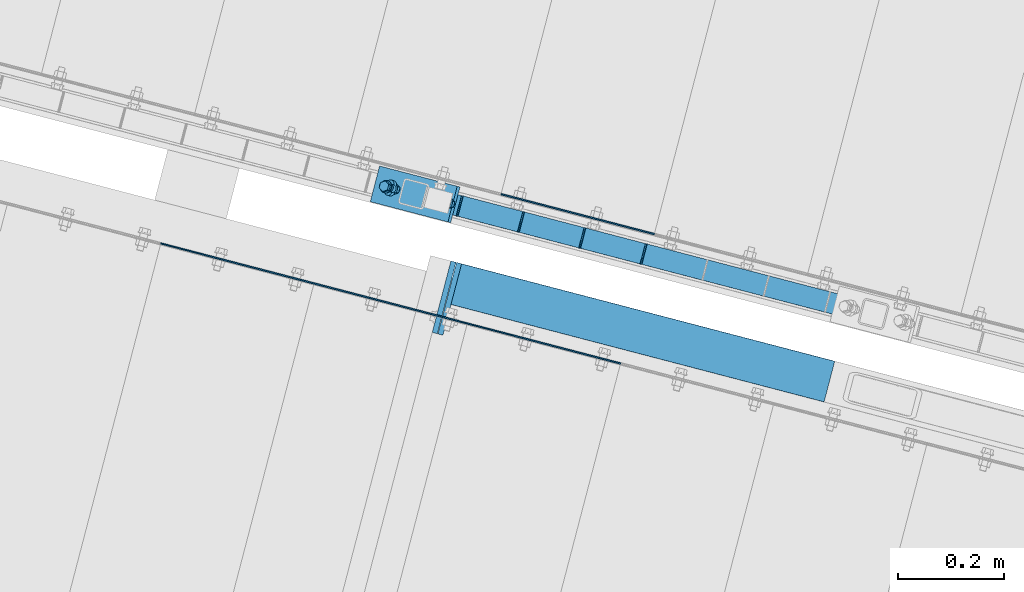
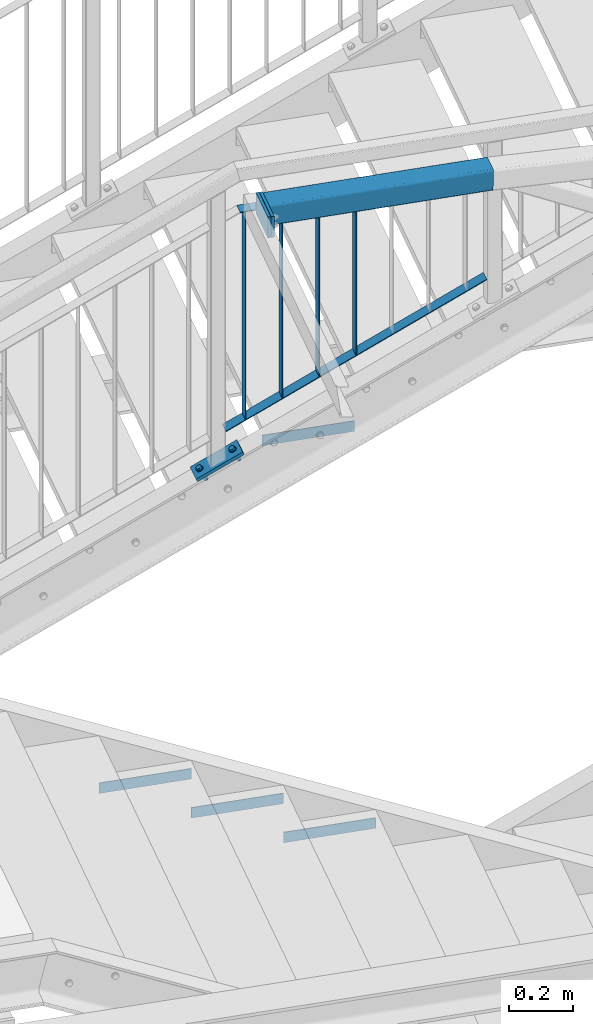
# One storey, part 65 of 169: 14 discrete accessories, 1 mechanical fastener, 7 elements without a shape of their own.
"""IFC2X3 building model written with IfcOpenShell, lengths in millimetres."""

import ifcopenshell
import ifcopenshell.guid

model = None  # the IFC model being written
_history = None  # IfcOwnerHistory: only IFC2X3 demands one
_inside = {}  # id of a spatial element -> (the spatial element, [elements in it])
_under = {}  # id of a project, library or spatial element -> (it, [spatial elements below it])
_declared = {}  # id of a project -> (the project, [libraries it declares])
_typed = {}  # id of a type object -> (the type object, [elements of that type])
_made_of = {}  # id of a material, layer set ... -> (it, [elements and type objects made of it])


def new_model(schema):
    """Start an empty IFC model of exactly this schema.

    Asked for "IFC4X3", IfcOpenShell would pick the latest addendum, in which some entities
    have other attributes; the version numbers below select the first issue.
    IFC2X3 requires an IfcOwnerHistory on every rooted entity: one is made here for all.
    """
    global model, _history
    if schema == "IFC4X3":
        model = ifcopenshell.file(schema_version=(4, 3, 0, 0))
    else:
        model = ifcopenshell.file(schema=schema)
    _inside.clear()
    _under.clear()
    _declared.clear()
    _typed.clear()
    _made_of.clear()
    _history = None
    if model.schema == "IFC2X3":
        org = make("IfcOrganization", Name="unknown")
        user = make(
            "IfcPersonAndOrganization",
            ThePerson=make("IfcPerson", FamilyName="unknown"),
            TheOrganization=org,
        )
        app = make(
            "IfcApplication",
            ApplicationDeveloper=org,
            Version="unknown",
            ApplicationFullName="unknown",
            ApplicationIdentifier="unknown",
        )
        _history = make(
            "IfcOwnerHistory",
            OwningUser=user,
            OwningApplication=app,
            ChangeAction="ADDED",
            CreationDate=0,
        )
    return model


def make(cls, **values):
    """One entity of the class cls with the attributes given. An attribute that is None is left unset."""
    return model.create_entity(
        cls, **{name: value for name, value in values.items() if value is not None}
    )


def rooted(cls, **values):
    """An entity with a GlobalId (a new one), such as an element, a storey or a relation."""
    return make(cls, GlobalId=ifcopenshell.guid.new(), OwnerHistory=_history, **values)


def si_unit(unit_type, name, prefix=None):
    """IfcSIUnit, for example si_unit("LENGTHUNIT", "METRE", prefix="MILLI")."""
    return make("IfcSIUnit", UnitType=unit_type, Prefix=prefix, Name=name)


def assignment(units):
    """IfcUnitAssignment: the units of a project."""
    return None if units is None else make("IfcUnitAssignment", Units=units)


def point(xyz):
    """IfcCartesianPoint."""
    return None if xyz is None else make("IfcCartesianPoint", Coordinates=xyz)


def direction(xyz):
    """IfcDirection."""
    return None if xyz is None else make("IfcDirection", DirectionRatios=xyz)


def frame(location, z_axis=None, x_axis=None):
    """IfcAxis2Placement3D, a coordinate frame: its origin and axes. An axis left out is left unset."""
    return make(
        "IfcAxis2Placement3D",
        Location=point(location),
        Axis=direction(z_axis),
        RefDirection=direction(x_axis),
    )


def frame_2d(location, x_axis=None):
    """IfcAxis2Placement2D, a coordinate frame in the plane: its origin and x axis."""
    return make(
        "IfcAxis2Placement2D", Location=point(location), RefDirection=direction(x_axis)
    )


def origin_with_axes():
    """The frame at (0, 0, 0) with the z axis (0, 0, 1) and the x axis (1, 0, 0) written out."""
    return frame((0.0, 0.0, 0.0), z_axis=(0.0, 0.0, 1.0), x_axis=(1.0, 0.0, 0.0))


def origin_2d_with_axis():
    """The frame at (0, 0) in the plane with the x axis (1, 0) written out."""
    return frame_2d((0.0, 0.0), x_axis=(1.0, 0.0))


def place(relative_to, where):
    """IfcLocalPlacement: puts the frame where relative to a parent placement (None: the world)."""
    return make(
        "IfcLocalPlacement", PlacementRelTo=relative_to, RelativePlacement=where
    )


def context(
    kind, dimensions, precision=None, world=None, true_north=None, identifier=None
):
    """IfcGeometricRepresentationContext, for example the 3D "Model" context."""
    return make(
        "IfcGeometricRepresentationContext",
        ContextIdentifier=identifier,
        ContextType=kind,
        CoordinateSpaceDimension=dimensions,
        Precision=precision,
        WorldCoordinateSystem=world,
        TrueNorth=true_north,
    )


def subcontext(parent, identifier, kind, view, scale=None):
    """IfcGeometricRepresentationSubContext, for example "Body" below "Model"."""
    return make(
        "IfcGeometricRepresentationSubContext",
        ContextIdentifier=identifier,
        ContextType=kind,
        ParentContext=parent,
        TargetScale=scale,
        TargetView=view,
    )


def project(units=None, contexts=None):
    """IfcProject with its units and contexts."""
    return rooted(
        "IfcProject",
        Name="project",
        RepresentationContexts=contexts,
        UnitsInContext=assignment(units),
    )


def spatial(cls, under=None, at=None, **own):
    """A site, building, storey or space (cls), placed at a placement, below another one or the project."""
    s = rooted(cls, ObjectPlacement=at, **own)
    if under is not None:
        _under.setdefault(under.id(), (under, []))[1].append(s)
    return s


def polyline(points):
    """IfcPolyline through the points."""
    return make("IfcPolyline", Points=[point(p) for p in points])


def circle_curve(where, radius):
    """IfcCircle in the frame where."""
    return make("IfcCircle", Position=where, Radius=radius)


def parameter(value):
    """IfcParameterValue: where a trimmed curve begins or ends, as a parameter of its basis curve."""
    return model.create_entity("IfcParameterValue", value)


def trimmed(basis, trim1, trim2, sense, master):
    """IfcTrimmedCurve: the piece of a basis curve between two trims."""
    return make(
        "IfcTrimmedCurve",
        BasisCurve=basis,
        Trim1=trim1,
        Trim2=trim2,
        SenseAgreement=sense,
        MasterRepresentation=master,
    )


def segment(curve, same_sense, transition):
    """IfcCompositeCurveSegment."""
    return make(
        "IfcCompositeCurveSegment",
        Transition=transition,
        SameSense=same_sense,
        ParentCurve=curve,
    )


def composite_curve(segments, self_intersect=None):
    """IfcCompositeCurve: segments joined end to end."""
    return make("IfcCompositeCurve", Segments=segments, SelfIntersect=self_intersect)


def profile(cls, at=None, kind="AREA", **sizes):
    """A parametric profile (cls). Its sizes go by their IFC names, for example OverallWidth=200.0."""
    return make(cls, ProfileType=kind, Position=at, **sizes)


def rectangle(**sizes):
    """IfcRectangleProfileDef."""
    return profile("IfcRectangleProfileDef", **sizes)


def hollow_rectangle(**sizes):
    """IfcRectangleHollowProfileDef."""
    return profile("IfcRectangleHollowProfileDef", **sizes)


def circle(**sizes):
    """IfcCircleProfileDef."""
    return profile("IfcCircleProfileDef", **sizes)


def outline(outer, holes=None, kind="AREA"):
    """IfcArbitraryClosedProfileDef: a profile drawn as a closed curve; with holes, ...WithVoids."""
    if holes is None:
        return make("IfcArbitraryClosedProfileDef", ProfileType=kind, OuterCurve=outer)
    return make(
        "IfcArbitraryProfileDefWithVoids",
        ProfileType=kind,
        OuterCurve=outer,
        InnerCurves=holes,
    )


def extrude(swept, where, along, depth):
    """IfcExtrudedAreaSolid: the profile swept, set in the frame where, extruded along a direction by depth."""
    return make(
        "IfcExtrudedAreaSolid",
        SweptArea=swept,
        Position=where,
        ExtrudedDirection=direction(along),
        Depth=depth,
    )


def boolean(op, a, b):
    """IfcBooleanResult of two solids."""
    return make("IfcBooleanResult", Operator=op, FirstOperand=a, SecondOperand=b)


def clip(a, b, op="DIFFERENCE"):
    """IfcBooleanClippingResult: the solid a cut by the half space b."""
    return make(
        "IfcBooleanClippingResult", Operator=op, FirstOperand=a, SecondOperand=b
    )


def halfspace(plane, agree):
    """IfcHalfSpaceSolid: all space on one side of the plane z = 0 of the frame plane."""
    return make(
        "IfcHalfSpaceSolid",
        BaseSurface=make("IfcPlane", Position=plane),
        AgreementFlag=agree,
    )


def shape(context_of_items, identifier, shape_type, items):
    """IfcShapeRepresentation: the items that make up one representation, for example the "Body"."""
    return make(
        "IfcShapeRepresentation",
        ContextOfItems=context_of_items,
        RepresentationIdentifier=identifier,
        RepresentationType=shape_type,
        Items=items,
    )


def source(mapping_origin, context_of_items, identifier, shape_type, items):
    """IfcRepresentationMap: a shape defined once, which mapped items show again and again."""
    return make(
        "IfcRepresentationMap",
        MappingOrigin=mapping_origin,
        MappedRepresentation=shape(context_of_items, identifier, shape_type, items),
    )


def transform(
    local_origin,
    x_axis=None,
    y_axis=None,
    z_axis=None,
    scale=None,
    scale2=None,
    scale3=None,
    uniform=True,
):
    """IfcCartesianTransformationOperator3D, or its non-uniform kind. x_axis, y_axis, z_axis: its Axis1, 2, 3."""
    if uniform:
        return make(
            "IfcCartesianTransformationOperator3D",
            Axis1=direction(x_axis),
            Axis2=direction(y_axis),
            LocalOrigin=point(local_origin),
            Scale=scale,
            Axis3=direction(z_axis),
        )
    return make(
        "IfcCartesianTransformationOperator3DnonUniform",
        Axis1=direction(x_axis),
        Axis2=direction(y_axis),
        LocalOrigin=point(local_origin),
        Scale=scale,
        Axis3=direction(z_axis),
        Scale2=scale2,
        Scale3=scale3,
    )


def mapped(mapping_source, mapping_target):
    """IfcMappedItem: shows the shape of a source again, moved by a transform."""
    return make(
        "IfcMappedItem", MappingSource=mapping_source, MappingTarget=mapping_target
    )


def material(Name=None, Category=None):
    """IfcMaterial."""
    return make("IfcMaterial", Name=Name, Category=Category)


def made_of(thing, what):
    """Note that an element or type object is made of a material, layer set ...; save() writes the relation."""
    if what is not None:
        _made_of.setdefault(what.id(), (what, []))[1].append(thing)
    return thing


def type_object(cls, material=None, **own):
    """A type object (cls), such as IfcWallType, which elements share."""
    return made_of(rooted(cls, **own), material)


def element(
    cls,
    number,
    at=None,
    inside=None,
    cuts=None,
    type_object=None,
    material=None,
    context=None,
    identifier="Body",
    shape_type=None,
    held_by="IfcProductDefinitionShape",
    body=None,
    shapes=None,
    **own,
):
    """One element of the class cls, such as IfcWall. Its Tag is "e" and its number.

    at: its placement. inside: the storey or other place that contains it. cuts: it is an
    opening in that element (IfcRelVoidsElement). A single representation is given by context,
    identifier, shape_type and body (its items); several are given by shapes. held_by: the class
    of the entity that holds the representations. save() writes the other relations.
    """
    e = rooted(cls, Tag="e%d" % number, ObjectPlacement=at, **own)
    if body is not None:
        shapes = [shape(context, identifier, shape_type, body)]
    if shapes is not None:
        e.Representation = make(held_by, Representations=shapes)
    if inside is not None:
        _inside.setdefault(inside.id(), (inside, []))[1].append(e)
    if cuts is not None:
        rooted(
            "IfcRelVoidsElement", RelatingBuildingElement=cuts, RelatedOpeningElement=e
        )
    if type_object is not None:
        _typed.setdefault(type_object.id(), (type_object, []))[1].append(e)
    return made_of(e, material)


def aggregate(whole, parts):
    """IfcRelAggregates: a whole, such as a stair, and the parts it consists of."""
    return rooted("IfcRelAggregates", RelatingObject=whole, RelatedObjects=parts)


def save(model, path):
    """Write the relations noted so far, then the file.

    IfcRelAggregates (storeys below a building ...), IfcRelContainedInSpatialStructure (elements
    in a storey), IfcRelDefinesByType, IfcRelAssociatesMaterial and IfcRelDeclares: one each for
    every whole, place, type object, material and project.
    """
    for whole, parts in _under.values():
        aggregate(whole, parts)
    for where, things in _inside.values():
        rooted(
            "IfcRelContainedInSpatialStructure",
            RelatedElements=things,
            RelatingStructure=where,
        )
    for kind, things in _typed.values():
        rooted("IfcRelDefinesByType", RelatedObjects=things, RelatingType=kind)
    for what, things in _made_of.values():
        rooted("IfcRelAssociatesMaterial", RelatedObjects=things, RelatingMaterial=what)
    for by, libraries in _declared.values():
        rooted("IfcRelDeclares", RelatingContext=by, RelatedDefinitions=libraries)
    model.write(path)


model = new_model("IFC2X3")

# Units and contexts
model_context = context("Model", 3, precision=1e-05, world=origin_with_axes())
body_context = subcontext(model_context, "Body", "Model", "MODEL_VIEW")
ifc_project = project(units=[si_unit("LENGTHUNIT", "METRE", prefix="MILLI"), si_unit("AREAUNIT", "SQUARE_METRE"), si_unit("VOLUMEUNIT", "CUBIC_METRE"), si_unit("MASSUNIT", "GRAM", prefix="KILO"), si_unit("TIMEUNIT", "SECOND"), si_unit("PLANEANGLEUNIT", "RADIAN"), si_unit("SOLIDANGLEUNIT", "STERADIAN"), si_unit("THERMODYNAMICTEMPERATUREUNIT", "DEGREE_CELSIUS"), si_unit("LUMINOUSINTENSITYUNIT", "LUMEN")], contexts=[model_context])

# Site, building, storey
site_placement = place(None, origin_with_axes())
site = spatial("IfcSite", under=ifc_project, at=site_placement, Name="Undefined", CompositionType="ELEMENT")
building_placement = place(site_placement, origin_with_axes())
building = spatial("IfcBuilding", under=site, at=building_placement, Name="Undefined", CompositionType="ELEMENT")
storey_placement = place(building_placement, origin_with_axes())
storey = spatial("IfcBuildingStorey", under=building, at=storey_placement, Name="Undefined", CompositionType="ELEMENT", Elevation=0.0)

# Assembly, discrete accessory
assembly_1_placement = place(storey_placement, origin_with_axes())
assembly_1 = element("IfcElementAssembly", 1, at=assembly_1_placement, inside=storey, Name="Steel Assembly", AssemblyPlace="NOTDEFINED", PredefinedType="RIGID_FRAME")
ifc_material_1 = material(Name="STEEL/S235")
discrete_accessory_type_1 = type_object("IfcDiscreteAccessoryType", Name="BLACHA")
discrete_accessory_1_placement = place(assembly_1_placement, frame((-26855.1359177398, 6910.02101030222, 13909.0828067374), z_axis=(0.96756338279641, -0.25262835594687, 0.000118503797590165), x_axis=(-8.00909999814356e-05, 0.000162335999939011, 0.999999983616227)))
discrete_accessory_1 = element("IfcDiscreteAccessory", 2, at=discrete_accessory_1_placement, type_object=discrete_accessory_type_1, material=ifc_material_1, Name="BLACHA", ObjectType="BL10*140", context=body_context, shape_type="SweptSolid", body=[
    extrude(outline(polyline([(1.4915713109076e-10, 69.9999999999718), (79.9999999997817, 69.999999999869), (79.9999999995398, -70.00000000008), (-1.4915713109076e-10, -69.9999999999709), (1.4915713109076e-10, 69.9999999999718)])), frame((-1.81898926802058e-12, -1.18000176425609e-16, -5.00000000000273), z_axis=(0.0, 0.0, 1.0), x_axis=(1.0, 0.0, 0.0)), (0.0, 0.0, 1.0), 10.0),
])

assembly_2_placement = place(storey_placement, origin_with_axes())
assembly_2 = element("IfcElementAssembly", 3, at=assembly_2_placement, inside=storey, Name="Steel Assembly", AssemblyPlace="NOTDEFINED", PredefinedType="RIGID_FRAME")
discrete_accessory_2_placement = place(assembly_2_placement, frame((-26865.779114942, 6912.79992221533, 13909.0815033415), z_axis=(0.96756338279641, -0.25262835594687, 0.000118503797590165), x_axis=(-8.00909999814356e-05, 0.000162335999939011, 0.999999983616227)))
discrete_accessory_2 = element("IfcDiscreteAccessory", 4, at=discrete_accessory_2_placement, type_object=discrete_accessory_type_1, material=ifc_material_1, Name="BLACHA", ObjectType="BL10*140", context=body_context, shape_type="SweptSolid", body=[
    extrude(outline(polyline([(1.4915713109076e-10, 69.9999999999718), (79.9999999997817, 69.999999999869), (79.9999999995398, -70.00000000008), (-1.4915713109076e-10, -69.9999999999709), (1.4915713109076e-10, 69.9999999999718)])), frame((-1.81898926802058e-12, -1.18000176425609e-16, -5.00000000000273), z_axis=(0.0, 0.0, 1.0), x_axis=(1.0, 0.0, 0.0)), (0.0, 0.0, 1.0), 10.0),
])
aggregate(assembly_2, [discrete_accessory_2])

assembly_3_placement = place(storey_placement, origin_with_axes())
assembly_3 = element("IfcElementAssembly", 5, at=assembly_3_placement, inside=storey, Name="Steel Assembly", AssemblyPlace="NOTDEFINED", PredefinedType="RIGID_FRAME")
discrete_accessory_3_placement = place(assembly_3_placement, frame((-26929.5478369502, 7074.00199270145, 12909.2371458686), z_axis=(-0.432715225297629, 0.11294923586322, 0.894427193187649), x_axis=(0.252628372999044, 0.967563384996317, 3.42100000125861e-05)))
discrete_accessory_3 = element("IfcDiscreteAccessory", 6, at=discrete_accessory_3_placement, type_object=discrete_accessory_type_1, material=ifc_material_1, Name="BLACHA", ObjectType="BL12*170", context=body_context, shape_type="SweptSolid", body=[
    extrude(outline(polyline([(5.82076609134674e-11, 84.99999999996), (70.0000000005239, 84.9999999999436), (70.0000000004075, -84.9999999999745), (-5.82076609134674e-11, -84.99999999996), (5.82076609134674e-11, 84.99999999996)])), frame((-1.81898942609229e-12, -1.81898940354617e-12, -5.99999999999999), z_axis=(0.0, 0.0, 1.0), x_axis=(1.0, 0.0, 0.0)), (0.0, 0.0, 1.0), 12.0),
])

# Discrete accessory
discrete_accessory_type_2 = type_object("IfcDiscreteAccessoryType", Name="BEAM")
discrete_accessory_4_placement = place(assembly_1_placement, frame((-26135.9892058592, 6753.2649983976, 13949.1658513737), z_axis=(8.00909999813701e-05, -0.000162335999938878, -0.999999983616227), x_axis=(-0.967563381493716, 0.252628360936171, -0.000118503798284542)))
discrete_accessory_4 = element("IfcDiscreteAccessory", 7, at=discrete_accessory_4_placement, type_object=discrete_accessory_type_2, material=ifc_material_1, Name="BEAM", ObjectType="SHS80*4", context=body_context, shape_type="Clipping", body=[
    clip(clip(extrude(hollow_rectangle(XDim=80.0, YDim=80.0, WallThickness=4.0, InnerFilletRadius=4.0, OuterFilletRadius=8.0, at=origin_2d_with_axis()), frame((730.425788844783, -7.17147075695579e-13, 9.89911533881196e-18), z_axis=(-1.0, -3.46944695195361e-18, -1.38777878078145e-17), x_axis=(1.73472347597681e-18, -1.0, 0.0)), (0.0, 0.0, 1.0), 769.95), halfspace(frame((730.425788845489, 4.08056166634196e-09, 40.0000000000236), z_axis=(-1.0, -3.46944695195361e-18, -1.38777878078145e-17), x_axis=(1.73472347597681e-18, -1.0, 0.0)), True)), halfspace(frame((1.02154190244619e-05, 0.00025891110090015, -40.0002588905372), z_axis=(-0.999688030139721, -1.62913579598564e-07, 0.0249768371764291), x_axis=(-1.25063525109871e-09, 0.999999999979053, 6.47253026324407e-06)), False)),
])

aggregate(assembly_1, [discrete_accessory_1, discrete_accessory_4])

discrete_accessory_type_3 = type_object("IfcDiscreteAccessoryType", Name="PORĘCZ")
discrete_accessory_5_placement = place(assembly_3_placement, frame((-26077.6190467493, 6887.87240340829, 13860.1970313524), z_axis=(3.4552000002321e-05, 0.000132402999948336, 0.999999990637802), x_axis=(-0.967563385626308, 0.252628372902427, -1.72000000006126e-07)))
discrete_accessory_5 = element("IfcDiscreteAccessory", 8, at=discrete_accessory_5_placement, type_object=discrete_accessory_type_3, material=ifc_material_1, Name="PORĘCZ", ObjectType="BL40*3", context=body_context, shape_type="Clipping", body=[
    clip(clip(extrude(outline(polyline([(802.09830170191, 20.0000000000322), (802.098301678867, -19.9999999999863), (-0.999999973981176, -20.0000000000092), (-0.999999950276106, 20.0000000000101), (802.09830170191, 20.0000000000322)])), frame((1.81898940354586e-12, -1.77635442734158e-15, -1.50000000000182), z_axis=(0.0, 0.0, 1.0), x_axis=(1.0, 0.0, 0.0)), (0.0, 0.0, 1.0), 3.0), halfspace(frame((802.452403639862, 1.31140609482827e-09, 1.50000001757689), z_axis=(0.973248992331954, -5.59252455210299e-10, -0.229752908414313), x_axis=(0.0, 1.0, 0.0)), False)), halfspace(frame((-0.999999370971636, 999.999999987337, 1.26783561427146e-09), z_axis=(1.0, 0.0, 0.0), x_axis=(-2.54700353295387e-10, 0.0, -1.0)), True)),
])

discrete_accessory_6_placement = place(assembly_3_placement, frame((-26836.1833145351, 7085.95383391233, 14017.1970301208), z_axis=(-0.967563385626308, 0.252628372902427, -1.72000000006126e-07), x_axis=(-3.45692487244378e-05, -0.000132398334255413, -0.999999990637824)))
discrete_accessory_6 = element("IfcDiscreteAccessory", 9, at=discrete_accessory_6_placement, type_object=discrete_accessory_type_3, material=ifc_material_1, Name="PORĘCZ", ObjectType="BL40*3", context=body_context, shape_type="Clipping", body=[
    clip(clip(extrude(outline(polyline([(953.32294910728, 20.0000000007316), (953.322949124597, -19.9999999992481), (158.500000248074, -19.9999999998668), (158.50000023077, 20.0000000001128), (953.32294910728, 20.0000000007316)])), frame((1.81898940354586e-12, -1.77635442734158e-15, -1.50000000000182), z_axis=(0.0, 0.0, 1.0), x_axis=(1.0, 0.0, 0.0)), (0.0, 0.0, 1.0), 3.0), halfspace(frame((158.4999998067, 1000.00000000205, -1.02481862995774e-08), z_axis=(1.0, 0.0, 0.0), x_axis=(-2.54700353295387e-10, 0.0, -1.0)), True)), halfspace(frame((953.658358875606, 1000.00000000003, 0.670820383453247), z_axis=(-0.89442719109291, -3.87067713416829e-10, 0.44721359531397), x_axis=(0.44721359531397, 3.3177479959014e-10, 0.89442719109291)), True)),
])

discrete_accessory_7_placement = place(assembly_3_placement, frame((-26720.0736341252, 7055.64637307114, 14077.1970294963), z_axis=(-0.967563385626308, 0.252628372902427, -1.72000000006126e-07), x_axis=(-3.45692487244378e-05, -0.000132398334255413, -0.999999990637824)))
discrete_accessory_7 = element("IfcDiscreteAccessory", 10, at=discrete_accessory_7_placement, type_object=discrete_accessory_type_3, material=ifc_material_1, Name="PORĘCZ", ObjectType="BL40*3", context=body_context, shape_type="Clipping", body=[
    clip(clip(extrude(outline(polyline([(953.32294910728, 20.0000000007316), (953.322949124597, -19.9999999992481), (218.500000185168, -19.9999999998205), (218.500000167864, 20.0000000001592), (953.32294910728, 20.0000000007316)])), frame((1.81898940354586e-12, -1.77635442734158e-15, -1.50000000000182), z_axis=(0.0, 0.0, 1.0), x_axis=(1.0, 0.0, 0.0)), (0.0, 0.0, 1.0), 3.0), halfspace(frame((218.499999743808, 1000.00000000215, -1.06592779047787e-08), z_axis=(1.0, 0.0, 0.0), x_axis=(-2.54700353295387e-10, 0.0, -1.0)), True)), halfspace(frame((953.658358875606, 1000.00000000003, 0.670820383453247), z_axis=(-0.89442719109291, -3.87067713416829e-10, 0.44721359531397), x_axis=(0.44721359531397, 3.3177479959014e-10, 0.89442719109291)), True)),
])

discrete_accessory_8_placement = place(assembly_3_placement, frame((-26603.9639537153, 7025.33891222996, 14137.1970288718), z_axis=(-0.967563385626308, 0.252628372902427, -1.72000000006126e-07), x_axis=(-3.45692487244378e-05, -0.000132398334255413, -0.999999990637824)))
discrete_accessory_8 = element("IfcDiscreteAccessory", 11, at=discrete_accessory_8_placement, type_object=discrete_accessory_type_3, material=ifc_material_1, Name="PORĘCZ", ObjectType="BL40*3", context=body_context, shape_type="Clipping", body=[
    clip(clip(extrude(outline(polyline([(953.32294910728, 20.0000000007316), (953.322949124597, -19.9999999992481), (278.500000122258, -19.9999999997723), (278.500000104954, 20.0000000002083), (953.32294910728, 20.0000000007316)])), frame((1.81898940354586e-12, -1.77635442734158e-15, -1.50000000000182), z_axis=(0.0, 0.0, 1.0), x_axis=(1.0, 0.0, 0.0)), (0.0, 0.0, 1.0), 3.0), halfspace(frame((278.499999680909, 1000.00000000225, -1.10776454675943e-08), z_axis=(1.0, 0.0, 0.0), x_axis=(-2.54700353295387e-10, 0.0, -1.0)), True)), halfspace(frame((953.658358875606, 1000.00000000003, 0.670820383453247), z_axis=(-0.89442719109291, -3.87067713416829e-10, 0.44721359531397), x_axis=(0.44721359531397, 3.3177479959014e-10, 0.89442719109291)), True)),
])

discrete_accessory_9_placement = place(assembly_3_placement, frame((-26487.8542733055, 6995.03145138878, 14197.1970282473), z_axis=(-0.967563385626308, 0.252628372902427, -1.72000000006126e-07), x_axis=(-3.45692487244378e-05, -0.000132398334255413, -0.999999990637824)))
discrete_accessory_9 = element("IfcDiscreteAccessory", 12, at=discrete_accessory_9_placement, type_object=discrete_accessory_type_3, material=ifc_material_1, Name="PORĘCZ", ObjectType="BL40*3", context=body_context, shape_type="Clipping", body=[
    clip(clip(extrude(outline(polyline([(953.32294910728, 20.0000000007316), (953.322949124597, -19.9999999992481), (338.500000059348, -19.9999999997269), (338.500000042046, 20.0000000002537), (953.32294910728, 20.0000000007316)])), frame((1.81898940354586e-12, -1.77635442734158e-15, -1.50000000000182), z_axis=(0.0, 0.0, 1.0), x_axis=(1.0, 0.0, 0.0)), (0.0, 0.0, 1.0), 3.0), halfspace(frame((338.499999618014, 1000.00000000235, -1.14960130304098e-08), z_axis=(1.0, 0.0, 0.0), x_axis=(-2.54700353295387e-10, 0.0, -1.0)), True)), halfspace(frame((953.658358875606, 1000.00000000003, 0.670820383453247), z_axis=(-0.89442719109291, -3.87067713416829e-10, 0.44721359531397), x_axis=(0.44721359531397, 3.3177479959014e-10, 0.89442719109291)), True)),
])

discrete_accessory_10_placement = place(assembly_3_placement, frame((-26923.2985886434, 7108.55798913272, 13017.1970392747), z_axis=(-0.252628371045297, -0.967563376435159, 0.000136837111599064), x_axis=(0.8654304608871, -0.225898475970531, 0.447213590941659)))
discrete_accessory_10 = element("IfcDiscreteAccessory", 13, at=discrete_accessory_10_placement, type_object=discrete_accessory_type_3, material=ifc_material_1, Name="PORĘCZ", ObjectType="BL40*3", context=body_context, shape_type="CSG", body=[
    boolean("DIFFERENCE", boolean("DIFFERENCE", boolean("DIFFERENCE", boolean("DIFFERENCE", extrude(rectangle(XDim=3.0, YDim=40.0, at=origin_2d_with_axis()), frame((996.331218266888, -5.53074929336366e-14, -2.49744430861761e-13), z_axis=(-1.0, -3.46944695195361e-18, -1.38777878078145e-17), x_axis=(1.73472347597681e-18, -1.0, 0.0)), (0.0, 0.0, 1.0), 986.43), extrude(rectangle(XDim=51.0, YDim=51.0, at=origin_2d_with_axis()), frame((62.609903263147, 125.219806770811, -1.03546508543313e-07), z_axis=(-0.44721359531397, -0.89442719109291, 6.42512531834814e-12), x_axis=(0.894427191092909, -0.447213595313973, -3.67723235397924e-10)), (0.0, 0.0, 1.0), 280.0)), extrude(rectangle(XDim=51.0, YDim=51.0, at=origin_2d_with_axis()), frame((1068.84049431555, 125.219806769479, -4.89614646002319e-07), z_axis=(-0.44721359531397, -0.89442719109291, 6.42512531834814e-12), x_axis=(0.894427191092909, -0.447213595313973, -3.67723235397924e-10)), (0.0, 0.0, 1.0), 280.0)), halfspace(frame((983.86991090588, 11.1803398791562, 999.999999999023), z_axis=(-0.89442719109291, 0.44721359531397, 3.67724048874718e-10), x_axis=(-0.44721359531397, -0.89442719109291, 6.42512531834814e-12)), True)), halfspace(frame((22.36067942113, -11.1803398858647, 1000.00000000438), z_axis=(0.894427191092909, -0.447213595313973, -3.67723235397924e-10), x_axis=(0.447213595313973, 0.894427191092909, -6.42523900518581e-12)), True)),
])

# Assembly, discrete accessory
assembly_4_placement = place(storey_placement, origin_with_axes())
assembly_4 = element("IfcElementAssembly", 14, at=assembly_4_placement, inside=storey, Name="Steel Assembly", AssemblyPlace="NOTDEFINED", PredefinedType="RIGID_FRAME")
ifc_material_2 = material(Name="STEEL/S235JR")
discrete_accessory_type_4 = type_object("IfcDiscreteAccessoryType", Name="ANGLE")
discrete_accessory_11_placement = place(assembly_4_placement, frame((-26467.6851965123, 7032.50569747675, 12930.0957858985), z_axis=(0.252562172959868, 0.967580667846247, 0.0), x_axis=(-0.967580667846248, 0.252562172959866, 0.0)))
discrete_accessory_11 = element("IfcDiscreteAccessory", 15, at=discrete_accessory_11_placement, type_object=discrete_accessory_type_4, material=ifc_material_2, Name="ANGLE", ObjectType="3*40", context=body_context, shape_type="SweptSolid", body=[
    extrude(rectangle(XDim=40.0, YDim=3.0, at=origin_2d_with_axis()), frame((300.000000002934, 1.81898940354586e-12, -1.81898940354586e-12), z_axis=(-1.0, -3.46944695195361e-18, -1.38777878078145e-17), x_axis=(1.73472347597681e-18, -1.0, 0.0)), (0.0, 0.0, 1.0), 300.0),
])
aggregate(assembly_4, [discrete_accessory_11])

assembly_5_placement = place(storey_placement, origin_with_axes())
assembly_5 = element("IfcElementAssembly", 16, at=assembly_5_placement, inside=storey, Name="Steel Assembly", AssemblyPlace="NOTDEFINED", PredefinedType="RIGID_FRAME")
discrete_accessory_12_placement = place(assembly_5_placement, frame((-27402.4435473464, 7014.93869838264, 11880.3215824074), z_axis=(-0.252694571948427, -0.96754609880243, 0.0), x_axis=(0.96754609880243, -0.252694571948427, 0.0)))
discrete_accessory_12 = element("IfcDiscreteAccessory", 17, at=discrete_accessory_12_placement, type_object=discrete_accessory_type_4, material=ifc_material_2, Name="ANGLE", ObjectType="3*40", context=body_context, shape_type="SweptSolid", body=[
    extrude(rectangle(XDim=40.0, YDim=3.0, at=origin_2d_with_axis()), frame((300.000000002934, 1.81898940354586e-12, -1.81898940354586e-12), z_axis=(-1.0, -3.46944695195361e-18, -1.38777878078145e-17), x_axis=(1.73472347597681e-18, -1.0, 0.0)), (0.0, 0.0, 1.0), 300.0),
])
aggregate(assembly_5, [discrete_accessory_12])

assembly_6_placement = place(storey_placement, origin_with_axes())
assembly_6 = element("IfcElementAssembly", 18, at=assembly_6_placement, inside=storey, Name="Steel Assembly", AssemblyPlace="NOTDEFINED", PredefinedType="RIGID_FRAME")
discrete_accessory_13_placement = place(assembly_6_placement, frame((-27112.1797142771, 6939.1303260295, 11730.3215824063), z_axis=(-0.252694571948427, -0.96754609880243, 0.0), x_axis=(0.96754609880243, -0.252694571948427, 0.0)))
discrete_accessory_13 = element("IfcDiscreteAccessory", 19, at=discrete_accessory_13_placement, type_object=discrete_accessory_type_4, material=ifc_material_2, Name="ANGLE", ObjectType="3*40", context=body_context, shape_type="SweptSolid", body=[
    extrude(rectangle(XDim=40.0, YDim=3.0, at=origin_2d_with_axis()), frame((300.000000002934, 1.81898940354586e-12, -1.81898940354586e-12), z_axis=(-1.0, -3.46944695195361e-18, -1.38777878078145e-17), x_axis=(1.73472347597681e-18, -1.0, 0.0)), (0.0, 0.0, 1.0), 300.0),
])
aggregate(assembly_6, [discrete_accessory_13])

assembly_7_placement = place(storey_placement, origin_with_axes())
assembly_7 = element("IfcElementAssembly", 20, at=assembly_7_placement, inside=storey, Name="Steel Assembly", AssemblyPlace="NOTDEFINED", PredefinedType="RIGID_FRAME")
discrete_accessory_14_placement = place(assembly_7_placement, frame((-26821.9158812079, 6863.32195367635, 11580.3215824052), z_axis=(-0.252694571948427, -0.96754609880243, 0.0), x_axis=(0.96754609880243, -0.252694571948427, 0.0)))
discrete_accessory_14 = element("IfcDiscreteAccessory", 21, at=discrete_accessory_14_placement, type_object=discrete_accessory_type_4, material=ifc_material_2, Name="ANGLE", ObjectType="3*40", context=body_context, shape_type="SweptSolid", body=[
    extrude(rectangle(XDim=40.0, YDim=3.0, at=origin_2d_with_axis()), frame((300.000000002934, 1.81898940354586e-12, -1.81898940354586e-12), z_axis=(-1.0, -3.46944695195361e-18, -1.38777878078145e-17), x_axis=(1.73472347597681e-18, -1.0, 0.0)), (0.0, 0.0, 1.0), 300.0),
])
aggregate(assembly_7, [discrete_accessory_14])

# Mechanical fastener
ifc_material_3 = material(Name="Undefined")
discrete_accessory_type_5 = type_object("IfcDiscreteAccessoryType", Name="Bolt assembly")
shared_shape = source(origin_with_axes(), body_context, "Body", "SweptSolid", [
    extrude(outline(composite_curve([segment(polyline([(-7.5, 7.5), (7.5, 7.5)]), True, "CONTINUOUS"), segment(trimmed(circle_curve(frame_2d((7.5, 0.0), x_axis=(0.0, 1.0)), 7.5), [parameter(0.0)], [parameter(3.14159265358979)], False, "PARAMETER"), True, "CONTINUOUS"), segment(polyline([(7.5, -7.5), (-7.5, -7.5)]), True, "CONTINUOUS"), segment(trimmed(circle_curve(frame_2d((-7.5, 0.0), x_axis=(0.0, -1.0)), 7.5), [parameter(0.0)], [parameter(3.14159265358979)], False, "PARAMETER"), True, "DISCONTINUOUS")], self_intersect=False)), frame((0.0, 0.649999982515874, 0.0), z_axis=(0.0, 1.0, 0.0), x_axis=(1.0, 0.0, 0.0)), (0.0, 0.0, 1.0), 11.6),
    extrude(outline(composite_curve([segment(polyline([(7.5, 7.5), (7.5, -7.5)]), True, "CONTINUOUS"), segment(trimmed(circle_curve(frame_2d((0.0, -7.5), x_axis=(1.0, 0.0)), 7.5), [parameter(0.0)], [parameter(3.14159265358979)], False, "PARAMETER"), True, "CONTINUOUS"), segment(polyline([(-7.5, -7.5), (-7.5, 7.5)]), True, "CONTINUOUS"), segment(trimmed(circle_curve(frame_2d((0.0, 7.5), x_axis=(-1.0, 0.0)), 7.5), [parameter(0.0)], [parameter(3.14159265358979)], False, "PARAMETER"), True, "DISCONTINUOUS")], self_intersect=False)), frame((0.0, -12.1500000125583, 0.0), z_axis=(0.0, 1.0, 0.0), x_axis=(1.0, 0.0, 0.0)), (0.0, 0.0, 1.0), 12.0),
    extrude(outline(polyline([(10.39230484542, 0.0), (5.19615242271, 9.00000000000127), (-5.19615242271, 9.00000000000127), (-10.39230484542, 0.0), (-5.19615242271, -9.00000000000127), (5.19615242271, -9.00000000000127), (10.39230484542, 0.0)])), frame((0.0, -22.7500000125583, 0.0), z_axis=(0.0, 1.0, 0.0), x_axis=(1.0, 0.0, 0.0)), (0.0, 0.0, 1.0), 7.5),
    extrude(circle(Radius=6.0, at=origin_2d_with_axis()), frame((0.0, -15.2500000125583, 0.0), z_axis=(0.0, 1.0, 0.0), x_axis=(1.0, 0.0, 0.0)), (0.0, 0.0, 1.0), 50.0),
    extrude(circle(Radius=12.0, at=origin_2d_with_axis()), frame((0.0, -15.2500000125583, 0.0), z_axis=(0.0, 1.0, 0.0), x_axis=(1.0, 0.0, 0.0)), (0.0, 0.0, 1.0), 3.0),
    extrude(circle(Radius=12.0, at=origin_2d_with_axis()), frame((0.0, 12.2499999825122, 0.0), z_axis=(0.0, 1.0, 0.0), x_axis=(1.0, 0.0, 0.0)), (0.0, 0.0, 1.0), 3.0),
    extrude(outline(polyline([(10.96965511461, 0.0), (5.484827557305, 9.50000000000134), (-5.484827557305, 9.50000000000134), (-10.96965511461, 0.0), (-5.484827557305, -9.50000000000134), (5.484827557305, -9.50000000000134), (10.96965511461, 0.0)])), frame((0.0, 15.2499999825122, 0.0), z_axis=(0.0, 1.0, 0.0), x_axis=(1.0, 0.0, 0.0)), (0.0, 0.0, 1.0), 10.0),
])
mechanical_fastener_placement = place(assembly_3_placement, frame((-26911.6856643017, 7131.3498634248, 12903.6490285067), z_axis=(0.86541113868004, -0.22597248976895, 0.447213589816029), x_axis=(-0.252628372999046, -0.967563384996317, -3.42099999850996e-05)))
mechanical_fastener = element("IfcMechanicalFastener", 22, at=mechanical_fastener_placement, type_object=discrete_accessory_type_5, material=ifc_material_3, Name="Bolt assembly", NominalDiameter=12.0, NominalLength=50.0, context=body_context, shape_type="MappedRepresentation", body=[
    mapped(shared_shape, transform((24.9999999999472, 0.0, -60.0000000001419))),
    mapped(shared_shape, transform((24.9999999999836, -3.54702933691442e-11, 60.0000000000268))),
])

aggregate(assembly_3, [mechanical_fastener, discrete_accessory_3, discrete_accessory_5, discrete_accessory_6, discrete_accessory_7, discrete_accessory_8, discrete_accessory_9, discrete_accessory_10])

save(model, "model.ifc")
